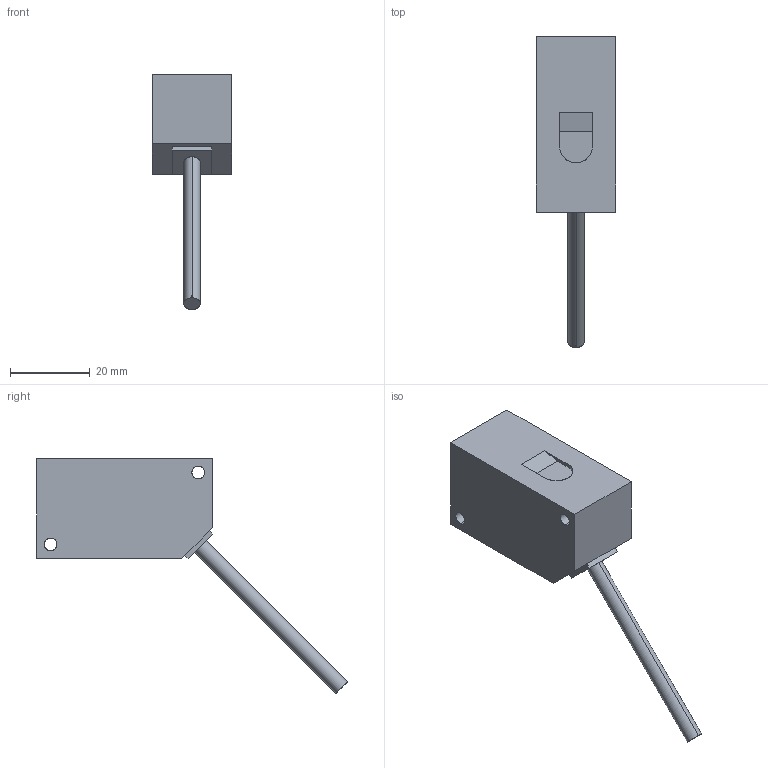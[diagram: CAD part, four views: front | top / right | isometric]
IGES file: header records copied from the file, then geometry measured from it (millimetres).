
Start section: SolidWorks IGES file using analytic representation for surfaces
Global section: file name: C:\catalog\hg-f13a-a.IGS; native system: SolidWorks 2019; preprocessor: SolidWorks 2019; author: 4047369; date: 221013.095249; units: millimetre
Bounding box: 20 x 77.83 x 58.83 mm (x, y, z)
Surface area: 5909.3 mm2 (no closed solid volume)
Topology: 0 solids, 0 shells, 78 faces, 704 edges, 704 vertices
Faces by surface type: bspline 62, revolution 16
